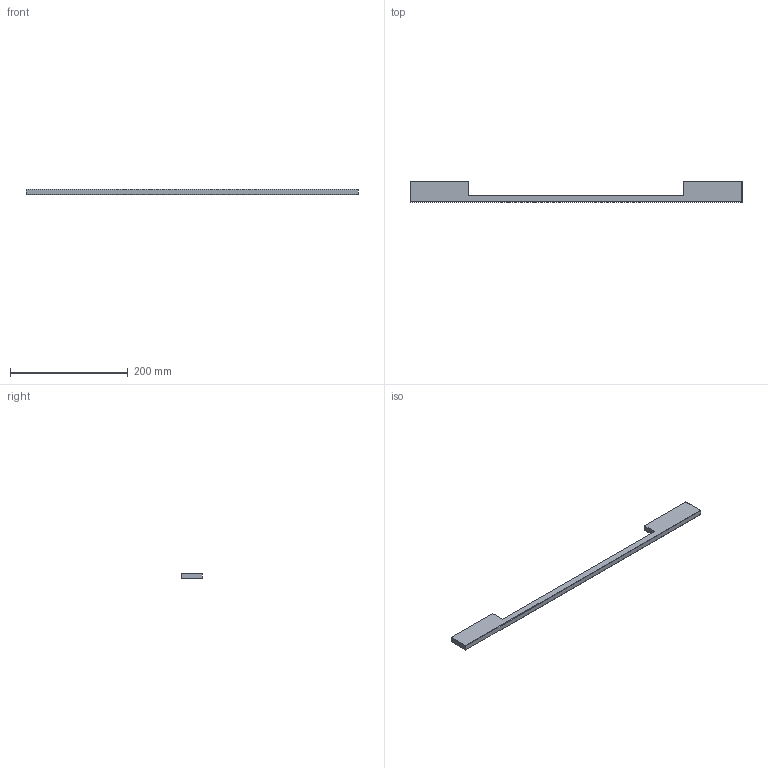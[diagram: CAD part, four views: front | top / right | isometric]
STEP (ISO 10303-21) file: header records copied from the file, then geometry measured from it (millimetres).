
FILE_DESCRIPTION( ( '' ), '1' );
FILE_NAME( 'D:/1.AUTOCAD EXPORT/Group 10/sheet_10_1/DONE/Sachin_1/9995589.stp', '2013-10-29T10:04:35', ( '' ), ( '' ), ' ', ' ', ' ' );
FILE_SCHEMA( ( 'CONFIG_CONTROL_DESIGN' ) );
Length unit declared in the file: millimetre
Products named in the file (1): 1
Bounding box: 565 x 35 x 9 mm (x, y, z)
Volume: 100958.9 mm3; surface area: 33314.7 mm2
Topology: 1 solids, 1 shells, 26 faces, 62 edges, 40 vertices
Faces by surface type: cylinder 15, plane 11
Entity records: 828 total; most frequent: CARTESIAN_POINT 165, DIRECTION 134, ORIENTED_EDGE 124, EDGE_CURVE 62, AXIS2_PLACEMENT_3D 49, VERTEX_POINT 40, LINE 36, VECTOR 36
